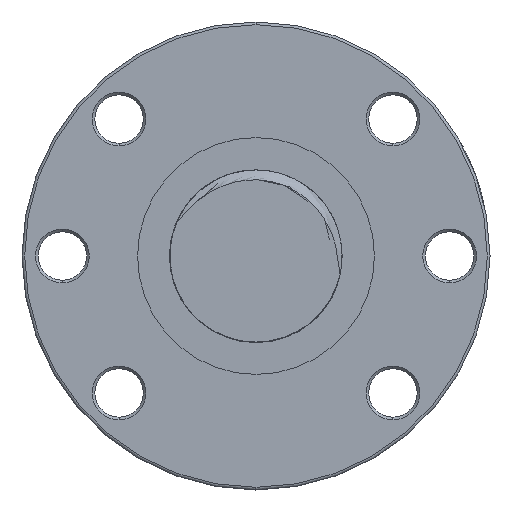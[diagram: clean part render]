
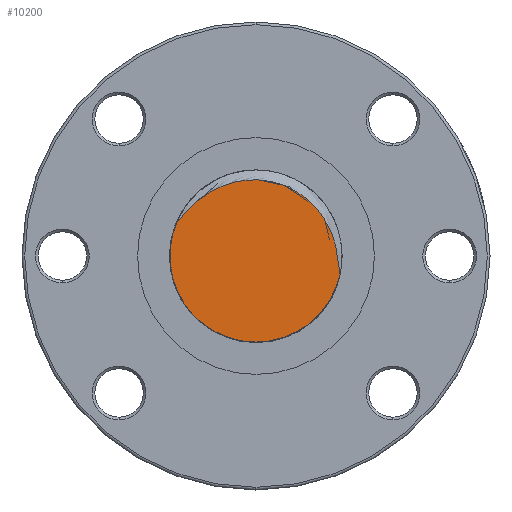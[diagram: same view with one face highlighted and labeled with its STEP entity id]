
A CAD part, left-side view. The second image highlights one B-rep face of the part: STEP entity #10200.
In plain terms, the highlighted planar face has unit normal (-1, 0, 0).
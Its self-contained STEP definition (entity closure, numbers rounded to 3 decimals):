
#10024 = VERTEX_POINT ( 'NONE', #19482 ) ;
#10033 = VERTEX_POINT ( 'NONE', #19330 ) ;
#10035 = EDGE_CURVE ( 'NONE', #10033, #10024, #19328, .T. ) ;
#10200 = ADVANCED_FACE ( 'NONE', ( #11068 ), #11063, .F. ) ;
#10201 = EDGE_LOOP ( 'NONE', ( #10202, #10203, #10214 ) ) ;
#10202 = ORIENTED_EDGE ( 'NONE', *, *, #10258, .F. ) ;
#10203 = ORIENTED_EDGE ( 'NONE', *, *, #10204, .T. ) ;
#10204 = EDGE_CURVE ( 'NONE', #10259, #10024, #11057, .T. ) ;
#10214 = ORIENTED_EDGE ( 'NONE', *, *, #10035, .F. ) ;
#10258 = EDGE_CURVE ( 'NONE', #10259, #10033, #11236, .T. ) ;
#10259 = VERTEX_POINT ( 'NONE', #11237 ) ;
#10855 = CARTESIAN_POINT ( 'NONE',  ( -127., 14.64, 6.455 ) ) ;
#10856 = CARTESIAN_POINT ( 'NONE',  ( -127., 14.47, 6.605 ) ) ;
#10857 = CARTESIAN_POINT ( 'NONE',  ( -127., 14.313, 6.768 ) ) ;
#10858 = CARTESIAN_POINT ( 'NONE',  ( -127., 14.002, 7.097 ) ) ;
#10859 = CARTESIAN_POINT ( 'NONE',  ( -127., 13.85, 7.265 ) ) ;
#10860 = CARTESIAN_POINT ( 'NONE',  ( -127., 13.393, 7.767 ) ) ;
#10861 = CARTESIAN_POINT ( 'NONE',  ( -127., 13.088, 8.103 ) ) ;
#10862 = CARTESIAN_POINT ( 'NONE',  ( -127., 12.151, 9.086 ) ) ;
#10863 = CARTESIAN_POINT ( 'NONE',  ( -127., 11.496, 9.713 ) ) ;
#10864 = CARTESIAN_POINT ( 'NONE',  ( -127., 10.453, 10.576 ) ) ;
#10865 = CARTESIAN_POINT ( 'NONE',  ( -127., 10.095, 10.852 ) ) ;
#10866 = CARTESIAN_POINT ( 'NONE',  ( -127., 9.358, 11.377 ) ) ;
#10867 = CARTESIAN_POINT ( 'NONE',  ( -127., 8.978, 11.626 ) ) ;
#10868 = CARTESIAN_POINT ( 'NONE',  ( -127., 7.818, 12.321 ) ) ;
#10869 = CARTESIAN_POINT ( 'NONE',  ( -127., 7.015, 12.719 ) ) ;
#10870 = CARTESIAN_POINT ( 'NONE',  ( -127., 5.763, 13.216 ) ) ;
#10871 = CARTESIAN_POINT ( 'NONE',  ( -127., 5.339, 13.365 ) ) ;
#10872 = CARTESIAN_POINT ( 'NONE',  ( -127., 4.473, 13.628 ) ) ;
#10873 = CARTESIAN_POINT ( 'NONE',  ( -127., 4.033, 13.742 ) ) ;
#10874 = CARTESIAN_POINT ( 'NONE',  ( -127., 2.713, 14.023 ) ) ;
#10875 = CARTESIAN_POINT ( 'NONE',  ( -127., 1.824, 14.133 ) ) ;
#10876 = CARTESIAN_POINT ( 'NONE',  ( -127., 0.478, 14.181 ) ) ;
#10877 = CARTESIAN_POINT ( 'NONE',  ( -127., 0.027, 14.177 ) ) ;
#10878 = CARTESIAN_POINT ( 'NONE',  ( -127., -0.879, 14.13 ) ) ;
#10879 = CARTESIAN_POINT ( 'NONE',  ( -127., -1.329, 14.087 ) ) ;
#10880 = CARTESIAN_POINT ( 'NONE',  ( -127., -2.663, 13.899 ) ) ;
#10881 = CARTESIAN_POINT ( 'NONE',  ( -127., -3.535, 13.699 ) ) ;
#10882 = CARTESIAN_POINT ( 'NONE',  ( -127., -4.816, 13.28 ) ) ;
#10883 = CARTESIAN_POINT ( 'NONE',  ( -127., -5.24, 13.12 ) ) ;
#10884 = CARTESIAN_POINT ( 'NONE',  ( -127., -6.073, 12.762 ) ) ;
#10885 = CARTESIAN_POINT ( 'NONE',  ( -127., -6.479, 12.566 ) ) ;
#10886 = CARTESIAN_POINT ( 'NONE',  ( -127., -7.664, 11.928 ) ) ;
#11035 = CARTESIAN_POINT ( 'NONE',  ( -127., -8.412, 11.437 ) ) ;
#11036 = CARTESIAN_POINT ( 'NONE',  ( -127., -9.471, 10.603 ) ) ;
#11037 = CARTESIAN_POINT ( 'NONE',  ( -127., -9.814, 10.308 ) ) ;
#11038 = CARTESIAN_POINT ( 'NONE',  ( -127., -10.474, 9.687 ) ) ;
#11039 = CARTESIAN_POINT ( 'NONE',  ( -127., -10.788, 9.363 ) ) ;
#11040 = CARTESIAN_POINT ( 'NONE',  ( -127., -11.684, 8.358 ) ) ;
#11041 = CARTESIAN_POINT ( 'NONE',  ( -127., -12.221, 7.642 ) ) ;
#11042 = CARTESIAN_POINT ( 'NONE',  ( -127., -12.938, 6.5 ) ) ;
#11043 = CARTESIAN_POINT ( 'NONE',  ( -127., -13.163, 6.107 ) ) ;
#11044 = CARTESIAN_POINT ( 'NONE',  ( -127., -13.581, 5.303 ) ) ;
#11045 = CARTESIAN_POINT ( 'NONE',  ( -127., -13.772, 4.896 ) ) ;
#11046 = CARTESIAN_POINT ( 'NONE',  ( -127., -14.293, 3.658 ) ) ;
#11047 = CARTESIAN_POINT ( 'NONE',  ( -127., -14.572, 2.811 ) ) ;
#11048 = CARTESIAN_POINT ( 'NONE',  ( -127., -15.013, 1.082 ) ) ;
#11049 = CARTESIAN_POINT ( 'NONE',  ( -127., -15.173, 0.198 ) ) ;
#11050 = CARTESIAN_POINT ( 'NONE',  ( -127., -15.352, -1.144 ) ) ;
#11051 = CARTESIAN_POINT ( 'NONE',  ( -127., -15.401, -1.593 ) ) ;
#11052 = CARTESIAN_POINT ( 'NONE',  ( -127., -15.475, -2.266 ) ) ;
#11053 = CARTESIAN_POINT ( 'NONE',  ( -127., -15.5, -2.491 ) ) ;
#11054 = CARTESIAN_POINT ( 'NONE',  ( -127., -15.557, -2.939 ) ) ;
#11055 = CARTESIAN_POINT ( 'NONE',  ( -127., -15.589, -3.163 ) ) ;
#11056 = CARTESIAN_POINT ( 'NONE',  ( -127., -15.638, -3.383 ) ) ;
#11057 = B_SPLINE_CURVE_WITH_KNOTS ( 'NONE', 3,
 ( #11056, #11055, #11054, #11053, #11052, #11051, #11050, #11049, #11048, #11047, #11046, #11045, #11044, #11043, #11042, #11041, #11040, #11039, #11038, #11037, #11036, #11035, #10886, #10885, #10884, #10883, #10882, #10881, #10880, #10879, #10878, #10877, #10876, #10875, #10874, #10873, #10872, #10871, #10870, #10869, #10868, #10867, #10866, #10865, #10864, #10863, #10862, #10861, #10860, #10859, #10858, #10857, #10856, #10855 ),
 .UNSPECIFIED., .F., .F.,
 ( 4, 2, 2, 2, 2, 2, 2, 2, 2, 2, 2, 2, 2, 2, 2, 2, 2, 2, 2, 2, 2, 2, 2, 2, 2, 2, 4 ),
 ( 0.001, 0.002, 0.002, 0.004, 0.006, 0.009, 0.011, 0.012, 0.015, 0.016, 0.017, 0.02, 0.021, 0.023, 0.026, 0.027, 0.028, 0.031, 0.032, 0.034, 0.037, 0.038, 0.039, 0.042, 0.043, 0.044, 0.045 ),
 .UNSPECIFIED. ) ;
#11059 = DIRECTION ( 'NONE',  ( 0., 0., -1. ) ) ;
#11060 = DIRECTION ( 'NONE',  ( 1., 0., 0. ) ) ;
#11061 = CARTESIAN_POINT ( 'NONE',  ( -127., 0., 0. ) ) ;
#11062 = AXIS2_PLACEMENT_3D ( 'NONE', #11061, #11060, #11059 ) ;
#11063 = PLANE ( 'NONE',  #11062 ) ;
#11068 = FACE_OUTER_BOUND ( 'NONE', #10201, .T. ) ;
#11234 = CARTESIAN_POINT ( 'NONE',  ( -127., 0., 0. ) ) ;
#11235 = AXIS2_PLACEMENT_3D ( 'NONE', #11234, #11297, #11296 ) ;
#11236 = CIRCLE ( 'NONE', #11235, 16. ) ;
#11237 = CARTESIAN_POINT ( 'NONE',  ( -127., -15.638, -3.383 ) ) ;
#11296 = DIRECTION ( 'NONE',  ( 0., 1., 0. ) ) ;
#11297 = DIRECTION ( 'NONE',  ( 1., 0., 0. ) ) ;
#19324 = DIRECTION ( 'NONE',  ( 0., 1., 0. ) ) ;
#19325 = DIRECTION ( 'NONE',  ( 1., 0., 0. ) ) ;
#19326 = CARTESIAN_POINT ( 'NONE',  ( -127., 0., 0. ) ) ;
#19327 = AXIS2_PLACEMENT_3D ( 'NONE', #19326, #19325, #19324 ) ;
#19328 = CIRCLE ( 'NONE', #19327, 16. ) ;
#19330 = CARTESIAN_POINT ( 'NONE',  ( -127., 0., -16. ) ) ;
#19482 = CARTESIAN_POINT ( 'NONE',  ( -127., 14.64, 6.455 ) ) ;
